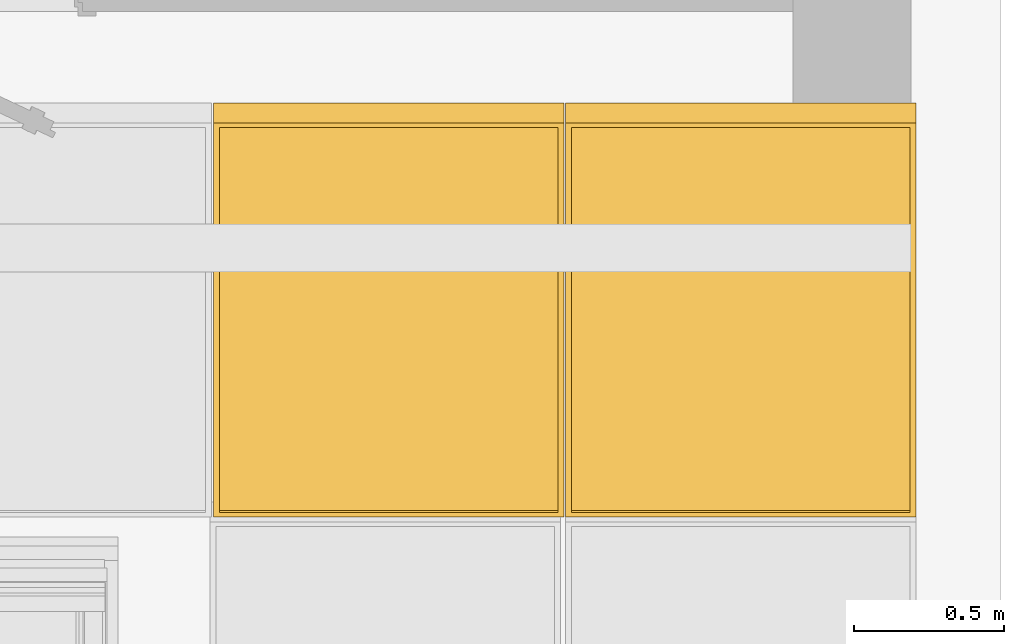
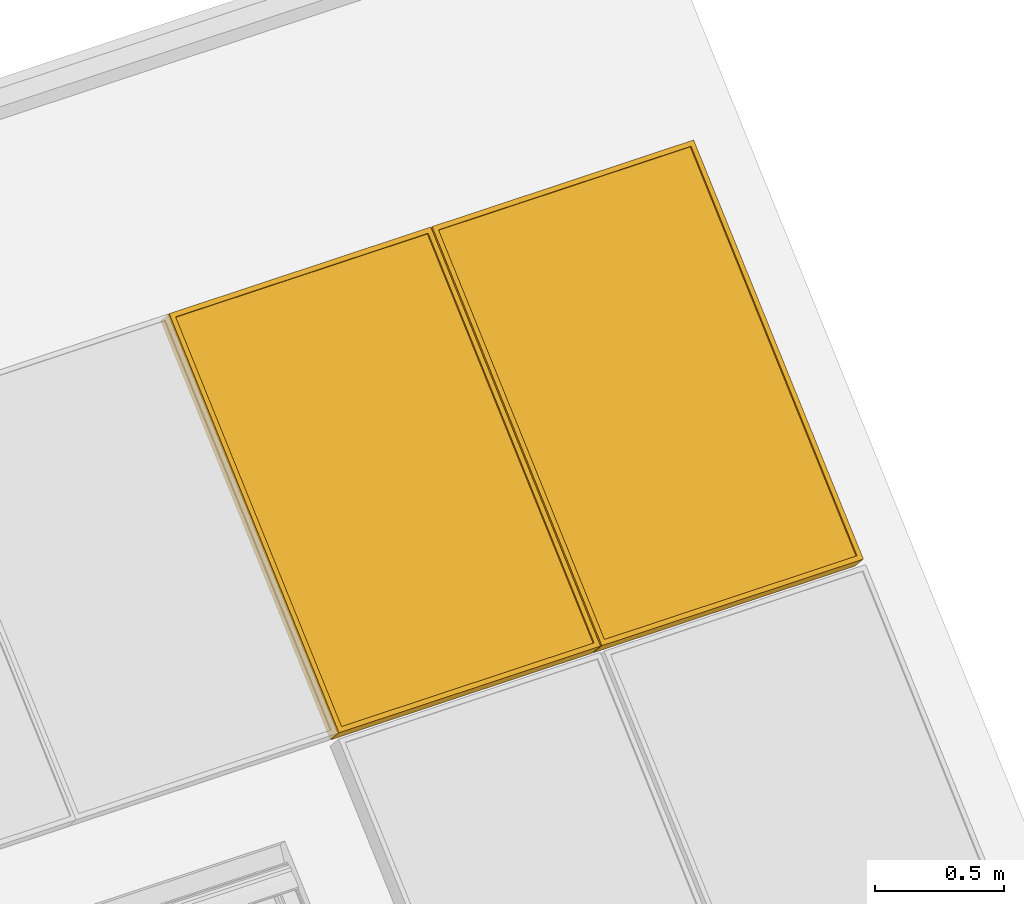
# One storey, part 16 of 43: 2 windows.
"""IFC2X3 building model written with IfcOpenShell, lengths in millimetres."""

from ifc_helpers import new_model, si_unit, frame, origin_with_axes, place, context, project, spatial, faceted_brep, element, save


model = new_model("IFC2X3")

# Units and contexts
model_context = context("Model", 3, world=origin_with_axes())
ifc_project = project(units=[si_unit("LENGTHUNIT", "METRE", prefix="MILLI")], contexts=[model_context])

# Site, building, storey
site_placement = place(None, origin_with_axes())
site = spatial("IfcSite", under=ifc_project, at=site_placement, Name="Site", CompositionType="ELEMENT")
building_placement = place(site_placement, origin_with_axes())
building = spatial("IfcBuilding", under=site, at=building_placement, Name="?", CompositionType="ELEMENT")
storey_placement = place(building_placement, frame((0.0, 0.0, 5938.0), z_axis=(0.0, 0.0, 1.0), x_axis=(1.0, 0.0, 0.0)))
storey = spatial("IfcBuildingStorey", under=building, at=storey_placement, Name="Dachgeschoß", CompositionType="ELEMENT", Elevation=5938.0)

# Windows
placement_1 = place(None, origin_with_axes())
placement_2 = place(placement_1, frame((13550.0, -7440.0, 6767.55029296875), z_axis=(0.0, -0.669130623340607, 0.743144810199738), x_axis=(1.00000000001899, 0.0, 0.0)))
placement_3 = place(placement_2, frame((3616.9999999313, 4260.5996621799, 429.999637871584), z_axis=(0.0, -1.00000000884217, 1.68356351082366e-07), x_axis=(1.00000000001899, 0.0, 0.0)))
window_1_placement = place(placement_3, origin_with_axes())
element("IfcWindow", 1, at=window_1_placement, inside=storey, Name="SO", OverallHeight=1730.0, OverallWidth=1130.0, context=model_context, shape_type="Brep", body=[
    faceted_brep([(1150.0, 50.000556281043, -65.0251551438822), (1130.0, 50.0003351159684, -45.0250977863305), (0.0, 50.0003351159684, -45.0250977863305), (-20.0, 50.000556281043, -65.0251551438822), (1150.0, 150.000551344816, -65.0251189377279), (1150.0, 50.0005540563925, -65.0251570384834), (-20.0, 50.0005540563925, -65.0251570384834), (-20.0, 150.000551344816, -65.0251189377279), (1130.0, 150.00033024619, -45.0250619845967), (1150.0, 150.000551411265, -65.0251193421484), (-20.0000000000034, 150.000551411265, -65.0251193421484), (-3.41060513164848e-12, 150.00033024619, -45.0250619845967), (1130.0, 50.0003351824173, -45.025098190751), (1130.0, 150.000332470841, -45.0250600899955), (-3.63797880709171e-12, 150.000332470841, -45.0250600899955), (-3.63797880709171e-12, 50.0003351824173, -45.025098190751), (-20.0000000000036, 50.000556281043, -65.0251551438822), (-4.393950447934e-08, 49.9989885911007, -45.0250982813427), (6.23040286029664e-08, 49.9999389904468, 1684.97440829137), (-20.0000001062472, 50.0015286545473, 1704.9735934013), (-20.0, 150.000551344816, -65.0251189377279), (-20.0, 50.000556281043, -65.0251551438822), (-20.0, 50.0029271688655, 1704.9736015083), (-20.0, 150.002922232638, 1704.97363771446), (-3.63797880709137e-12, 150.00033024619, -45.0250619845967), (-19.999999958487, 150.001860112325, -65.0251189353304), (-20.0000000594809, 150.002981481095, 1704.97363741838), (1.00993929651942e-07, 150.001426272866, 1684.97307304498), (0.0, 50.0003351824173, -45.025098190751), (0.0, 150.00033024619, -45.0250619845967), (0.0, 150.000058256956, 1684.97307333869), (0.0, 49.9999909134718, 1684.97441630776), (-19.9999999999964, 50.0029271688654, 1704.9736015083), (2.15368700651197e-09, 50.0015424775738, 1684.97441575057), (1130.00000000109, 49.9999912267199, 1684.97441585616), (1150.00000000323, 50.0013210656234, 1704.97447315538), (-19.9999999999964, 150.002922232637, 1704.97363771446), (-20.0000000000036, 50.0029249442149, 1704.9735996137), (1150.00000000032, 49.9997675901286, 1704.97447136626), (1150.00000000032, 149.99976487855, 1704.97450946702), (0.0, 150.000058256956, 1684.97307333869), (-20.0000000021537, 150.001408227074, 1704.97363809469), (1150.00000000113, 149.999765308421, 1704.97450974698), (1129.99999999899, 149.998471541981, 1684.97445261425), (0.0, 49.9999909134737, 1684.97441630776), (-4.25643520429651e-10, 150.000058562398, 1684.97376637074), (1130.00000000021, 149.999986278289, 1684.97445595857), (1129.99999999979, 49.9999909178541, 1684.97510589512), (1150.0, 49.9997698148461, 1704.97447326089), (1130.0, 49.9997765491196, 1684.974416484), (1130.0, 50.0003590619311, -45.0250827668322), (1150.0, 50.000365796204, -65.0251395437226), (1150.0, 149.999764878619, 1704.97450946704), (1150.0, 49.9997698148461, 1704.97447326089), (1150.0, 50.000556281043, -65.0251551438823), (1150.0, 150.000551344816, -65.0251189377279), (1130.0, 149.999985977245, 1684.97445251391), (1150.0, 149.999979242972, 1704.9745092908), (1150.0, 150.00057522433, -65.025103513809), (1130.0, 150.000568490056, -45.0250467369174), (1130.0, 49.9999909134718, 1684.97441630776), (1130.0, 149.999985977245, 1684.97445251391), (1130.0, 150.00033024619, -45.0250619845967), (1130.0, 50.0003351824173, -45.0250981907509), (3.38813178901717e-21, 140.000120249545, -45.0250074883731), (-2.18278728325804e-11, 140.000265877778, 1684.9748927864), (1130.00000000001, 140.000429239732, 1684.97525565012), (1129.99999999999, 140.000283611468, -45.0250074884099), (-3.63797880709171e-12, 129.9999102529, -45.0249529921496), (1129.99999999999, 130.000073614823, -45.0249529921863), (1130.00000000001, 130.000219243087, 1684.97531014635), (-2.54658515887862e-11, 130.000055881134, 1684.97494728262), (3.38813170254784e-21, 129.9999102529, -45.0249529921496), (-2.18278727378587e-11, 130.000055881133, 1684.97494728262), (1130.00000000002, 130.000219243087, 1684.97531014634), (1129.99999999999, 130.000073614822, -45.0249529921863)], [[[0, 1, 2, 3]], [[4, 5, 6, 7]], [[8, 9, 10, 11]], [[12, 13, 14, 15]], [[16, 17, 18, 19]], [[20, 21, 22, 23]], [[24, 25, 26, 27]], [[28, 29, 30, 31]], [[32, 33, 34, 35]], [[36, 37, 38, 39]], [[40, 41, 42, 43]], [[44, 45, 46, 47]], [[48, 49, 50, 51]], [[52, 53, 54, 55]], [[56, 57, 58, 59]], [[60, 61, 62, 63]], [[64, 65, 66, 67]], [[68, 69, 70, 71]], [[72, 73, 74, 75]]]),
])
placement_4 = place(placement_2, frame((2440.99999995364, 4260.5996621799, 429.999637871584), z_axis=(0.0, -1.00000000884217, 1.68356351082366e-07), x_axis=(1.00000000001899, 0.0, 0.0)))
window_2_placement = place(placement_4, origin_with_axes())
element("IfcWindow", 2, at=window_2_placement, inside=storey, Name="SO", OverallHeight=1730.0, OverallWidth=1130.0, context=model_context, shape_type="Brep", body=[
    faceted_brep([(1150.0, 50.000556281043, -65.0251551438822), (1130.0, 50.0003351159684, -45.0250977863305), (-2.27373675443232e-13, 50.0003351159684, -45.0250977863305), (-20.0009765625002, 50.000556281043, -65.0251551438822), (1150.0, 150.000551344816, -65.0251189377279), (1150.0, 50.000554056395, -65.0251570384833), (-20.0009765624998, 50.000554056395, -65.0251570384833), (-20.0009765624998, 150.000551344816, -65.0251189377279), (1130.0, 150.00033024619, -45.0250619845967), (1150.0, 150.000551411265, -65.0251193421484), (-20.0009765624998, 150.000551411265, -65.0251193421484), (2.27373675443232e-13, 150.00033024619, -45.0250619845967), (1130.0, 50.0003351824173, -45.025098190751), (1130.0, 150.000332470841, -45.0250600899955), (-3.63797880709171e-12, 150.000332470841, -45.0250600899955), (-3.63797880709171e-12, 50.0003351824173, -45.025098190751), (-20.0009765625, 50.000556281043, -65.0251551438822), (-4.1571183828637e-08, 49.9990246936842, -45.0250982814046), (5.94845914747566e-08, 49.9999750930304, 1684.97440829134), (-20.000000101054, 50.0015285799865, 1704.97497257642), (-20.0009765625, 150.000551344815, -65.0251189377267), (-20.0009765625, 50.0005562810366, -65.0251551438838), (-20.0000000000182, 50.0028548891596, 1704.97498068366), (-20.0000000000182, 150.00284995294, 1704.97501688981), (1.73472316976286e-18, 150.00033024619, -45.0250619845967), (-20.0009765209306, 150.001861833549, -65.0251188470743), (-20.0000000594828, 150.002834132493, 1704.97500887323), (1.01057594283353e-07, 150.001280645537, 1684.97444458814), (0.0, 50.0003351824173, -45.025098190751), (0.0, 150.00033024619, -45.0250619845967), (0.0, 149.999985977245, 1684.97445251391), (0.0, 49.9999909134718, 1684.97441630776), (-20.0, 50.0028548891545, 1704.97498068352), (2.05000105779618e-09, 50.0015061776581, 1684.97441592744), (1130.00000000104, 49.9999904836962, 1684.97441602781), (1150.00000000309, 50.0012855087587, 1704.97447316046), (-20.0000000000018, 150.002849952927, 1704.97501688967), (-20.0000000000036, 50.0028526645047, 1704.97497878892), (1150.00000000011, 49.9997675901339, 1704.97447136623), (1150.00000000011, 149.999764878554, 1704.97450946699), (-2.71050543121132e-20, 149.999985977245, 1684.97445251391), (-20.00000000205, 150.001334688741, 1704.97501726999), (1150.00000000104, 149.999765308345, 1704.97450974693), (1129.99999999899, 149.998470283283, 1684.97445261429), (0.0, 49.9999909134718, 1684.97441630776), (0.0, 149.999988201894, 1684.97445440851), (1130.0, 149.999988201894, 1684.97445440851), (1130.0, 49.9999909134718, 1684.97441630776), (1150.0, 49.9997698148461, 1704.97447326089), (1130.0, 49.9997765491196, 1684.974416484), (1130.0, 50.0003590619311, -45.0250827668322), (1150.0, 50.000365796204, -65.0251395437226), (1150.0, 149.999764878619, 1704.97450946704), (1150.0, 49.9997698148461, 1704.97447326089), (1150.0, 50.000556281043, -65.0251551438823), (1150.0, 150.000551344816, -65.0251189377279), (1130.0, 149.999985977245, 1684.97445251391), (1150.0, 149.999979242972, 1704.9745092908), (1150.0, 150.00057522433, -65.025103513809), (1130.0, 150.000568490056, -45.0250467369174), (1130.0, 49.9999909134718, 1684.97441630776), (1130.0, 149.999985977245, 1684.97445251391), (1130.0, 150.00033024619, -45.0250619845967), (1130.0, 50.0003351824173, -45.0250981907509), (3.63797880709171e-12, 140.000120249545, -45.0250074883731), (-1.14596332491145e-10, 139.999392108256, 1684.97513757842), (1130.00000000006, 139.999754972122, 1684.97448413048), (1129.99999999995, 140.000483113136, -45.0250074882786), (1.81898940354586e-12, 129.9999102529, -45.0249529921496), (1129.99999999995, 130.000273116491, -45.024952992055), (1130.00000000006, 129.999544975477, 1684.9745386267), (-1.12777343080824e-10, 129.999182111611, 1684.97519207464), (1.81898940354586e-12, 129.9999102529, -45.0249529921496), (-1.12777343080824e-10, 129.999182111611, 1684.97519207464), (1130.00000000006, 129.999544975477, 1684.9745386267), (1129.99999999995, 130.000273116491, -45.024952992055)], [[[0, 1, 2, 3]], [[4, 5, 6, 7]], [[8, 9, 10, 11]], [[12, 13, 14, 15]], [[16, 17, 18, 19]], [[20, 21, 22, 23]], [[24, 25, 26, 27]], [[28, 29, 30, 31]], [[32, 33, 34, 35]], [[36, 37, 38, 39]], [[40, 41, 42, 43]], [[44, 45, 46, 47]], [[48, 49, 50, 51]], [[52, 53, 54, 55]], [[56, 57, 58, 59]], [[60, 61, 62, 63]], [[64, 65, 66, 67]], [[68, 69, 70, 71]], [[72, 73, 74, 75]]]),
])

save(model, "model.ifc")
